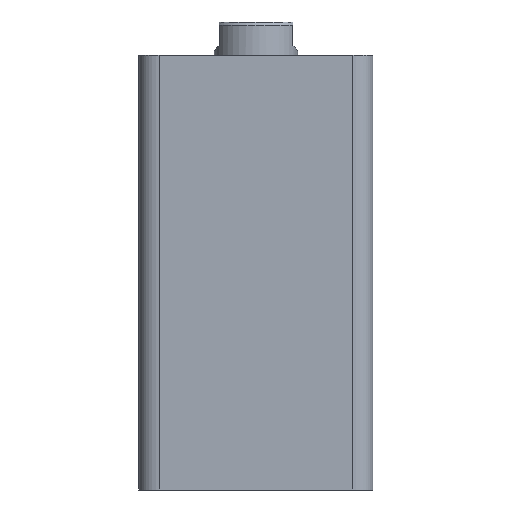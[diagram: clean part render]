
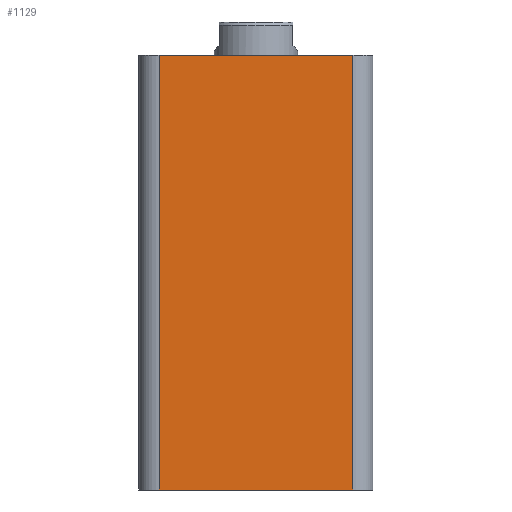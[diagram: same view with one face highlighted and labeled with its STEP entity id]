
A CAD part, front view. The second image highlights one B-rep face of the part: STEP entity #1129.
In plain terms, the highlighted planar face has unit normal (0, -1, 0).
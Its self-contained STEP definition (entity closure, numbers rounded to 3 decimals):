
#182 = VECTOR ( 'NONE', #2585, 1000. ) ;
#185 = LINE ( 'NONE', #2580, #182 ) ;
#253 = EDGE_LOOP ( 'NONE', ( #369, #368, #365, #366 ) ) ;
#365 = ORIENTED_EDGE ( 'NONE', *, *, #1017, .T. ) ;
#366 = ORIENTED_EDGE ( 'NONE', *, *, #1001, .T. ) ;
#368 = ORIENTED_EDGE ( 'NONE', *, *, #894, .T. ) ;
#369 = ORIENTED_EDGE ( 'NONE', *, *, #1059, .F. ) ;
#404 = VERTEX_POINT ( 'NONE', #1606 ) ;
#463 = VERTEX_POINT ( 'NONE', #1530 ) ;
#464 = VERTEX_POINT ( 'NONE', #1529 ) ;
#465 = VERTEX_POINT ( 'NONE', #1528 ) ;
#894 = EDGE_CURVE ( 'NONE', #465, #463, #185, .T. ) ;
#1001 = EDGE_CURVE ( 'NONE', #404, #464, #1482, .T. ) ;
#1017 = EDGE_CURVE ( 'NONE', #463, #404, #1459, .T. ) ;
#1059 = EDGE_CURVE ( 'NONE', #465, #464, #1409, .T. ) ;
#1129 = ADVANCED_FACE ( 'NONE', ( #1383 ), #2079, .F. ) ;
#1383 = FACE_OUTER_BOUND ( 'NONE', #253, .T. ) ;
#1406 = VECTOR ( 'NONE', #2151, 1000. ) ;
#1409 = LINE ( 'NONE', #2152, #1406 ) ;
#1456 = VECTOR ( 'NONE', #2287, 1000. ) ;
#1459 = LINE ( 'NONE', #2291, #1456 ) ;
#1480 = VECTOR ( 'NONE', #2348, 1000. ) ;
#1482 = LINE ( 'NONE', #2355, #1480 ) ;
#1528 = CARTESIAN_POINT ( 'NONE',  ( -29., -35., 130. ) ) ;
#1529 = CARTESIAN_POINT ( 'NONE',  ( 29., -35., 130. ) ) ;
#1530 = CARTESIAN_POINT ( 'NONE',  ( -29., -35., 0. ) ) ;
#1606 = CARTESIAN_POINT ( 'NONE',  ( 29., -35., 0. ) ) ;
#1630 = AXIS2_PLACEMENT_3D ( 'NONE', #2081, #2077, #2076 ) ;
#2076 = DIRECTION ( 'NONE',  ( 0., 0., 1. ) ) ;
#2077 = DIRECTION ( 'NONE',  ( 0., 1., 0. ) ) ;
#2079 = PLANE ( 'NONE',  #1630 ) ;
#2081 = CARTESIAN_POINT ( 'NONE',  ( -35., -35., 130. ) ) ;
#2151 = DIRECTION ( 'NONE',  ( 1., 0., 0. ) ) ;
#2152 = CARTESIAN_POINT ( 'NONE',  ( -35., -35., 130. ) ) ;
#2287 = DIRECTION ( 'NONE',  ( 1., 0., 0. ) ) ;
#2291 = CARTESIAN_POINT ( 'NONE',  ( -35., -35., 0. ) ) ;
#2348 = DIRECTION ( 'NONE',  ( 0., 0., 1. ) ) ;
#2355 = CARTESIAN_POINT ( 'NONE',  ( 29., -35., 130. ) ) ;
#2580 = CARTESIAN_POINT ( 'NONE',  ( -29., -35., 130. ) ) ;
#2585 = DIRECTION ( 'NONE',  ( 0., 0., -1. ) ) ;
